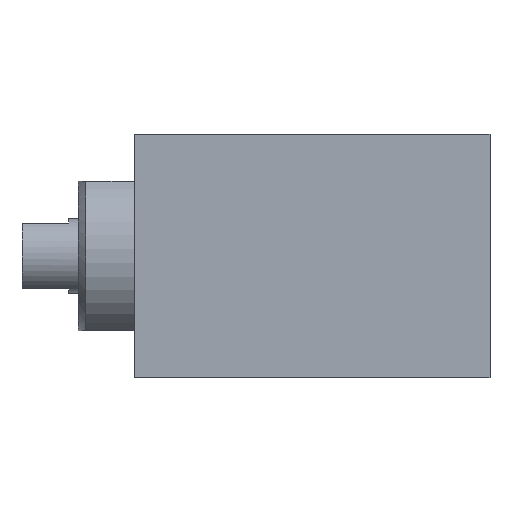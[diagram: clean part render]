
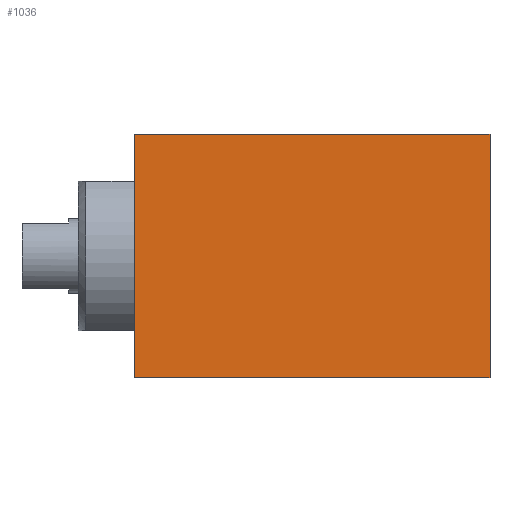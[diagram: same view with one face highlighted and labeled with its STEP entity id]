
A CAD part, front view. The second image highlights one B-rep face of the part: STEP entity #1036.
In plain terms, the highlighted planar face has unit normal (0, -1, 0).
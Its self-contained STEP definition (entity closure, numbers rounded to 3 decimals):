
#142 = ORIENTED_EDGE ( 'NONE', *, *, #1386, .F. ) ;
#174 = AXIS2_PLACEMENT_3D ( 'NONE', #2393, #2834, #2624 ) ;
#213 = CARTESIAN_POINT ( 'NONE',  ( 19., -10., -6.5 ) ) ;
#704 = LINE ( 'NONE', #795, #1157 ) ;
#721 = DIRECTION ( 'NONE',  ( -1., 0., 0. ) ) ;
#773 = EDGE_CURVE ( 'NONE', #2868, #2001, #1688, .T. ) ;
#795 = CARTESIAN_POINT ( 'NONE',  ( 19., -10., 6.5 ) ) ;
#810 = CARTESIAN_POINT ( 'NONE',  ( 0., -10., 6.5 ) ) ;
#958 = DIRECTION ( 'NONE',  ( 0., 0., 1. ) ) ;
#1036 = ADVANCED_FACE ( 'NONE', ( #1749 ), #1275, .T. ) ;
#1041 = VERTEX_POINT ( 'NONE', #1046 ) ;
#1046 = CARTESIAN_POINT ( 'NONE',  ( 19., -10., 6.5 ) ) ;
#1157 = VECTOR ( 'NONE', #721, 1000. ) ;
#1275 = PLANE ( 'NONE',  #174 ) ;
#1386 = EDGE_CURVE ( 'NONE', #2777, #2868, #1518, .T. ) ;
#1446 = CARTESIAN_POINT ( 'NONE',  ( 0., -10., -6.5 ) ) ;
#1460 = CARTESIAN_POINT ( 'NONE',  ( 19., -10., -6.5 ) ) ;
#1472 = EDGE_LOOP ( 'NONE', ( #2206, #142, #1810, #1942 ) ) ;
#1518 = LINE ( 'NONE', #1460, #2840 ) ;
#1688 = LINE ( 'NONE', #1446, #2803 ) ;
#1749 = FACE_OUTER_BOUND ( 'NONE', #1472, .T. ) ;
#1810 = ORIENTED_EDGE ( 'NONE', *, *, #2846, .T. ) ;
#1942 = ORIENTED_EDGE ( 'NONE', *, *, #1994, .T. ) ;
#1994 = EDGE_CURVE ( 'NONE', #1041, #2001, #704, .T. ) ;
#2001 = VERTEX_POINT ( 'NONE', #810 ) ;
#2121 = CARTESIAN_POINT ( 'NONE',  ( 19., -10., -6.5 ) ) ;
#2206 = ORIENTED_EDGE ( 'NONE', *, *, #773, .F. ) ;
#2393 = CARTESIAN_POINT ( 'NONE',  ( 19., -10., -6.5 ) ) ;
#2553 = LINE ( 'NONE', #2121, #2758 ) ;
#2624 = DIRECTION ( 'NONE',  ( 1., 0., 0. ) ) ;
#2651 = DIRECTION ( 'NONE',  ( 0., 0., 1. ) ) ;
#2722 = CARTESIAN_POINT ( 'NONE',  ( 0., -10., -6.5 ) ) ;
#2758 = VECTOR ( 'NONE', #958, 1000. ) ;
#2777 = VERTEX_POINT ( 'NONE', #213 ) ;
#2803 = VECTOR ( 'NONE', #2651, 1000. ) ;
#2830 = DIRECTION ( 'NONE',  ( -1., 0., 0. ) ) ;
#2834 = DIRECTION ( 'NONE',  ( 0., -1., 0. ) ) ;
#2840 = VECTOR ( 'NONE', #2830, 1000. ) ;
#2846 = EDGE_CURVE ( 'NONE', #2777, #1041, #2553, .T. ) ;
#2868 = VERTEX_POINT ( 'NONE', #2722 ) ;
